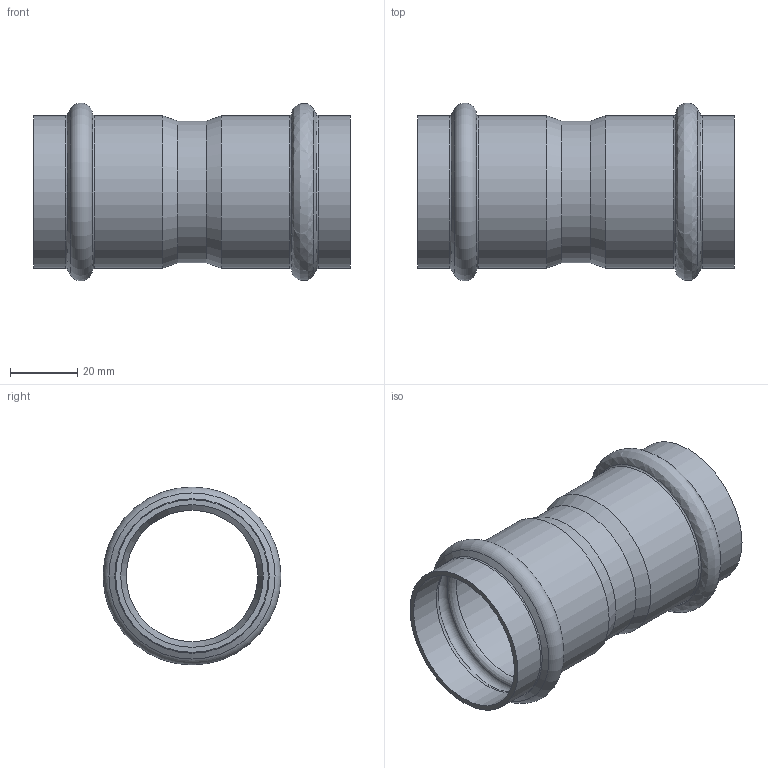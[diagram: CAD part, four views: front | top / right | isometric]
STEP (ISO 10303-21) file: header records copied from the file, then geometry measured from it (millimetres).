
FILE_DESCRIPTION((''),'2;1');
FILE_NAME('G:\Technics\CAD\Bauteile\042\6927042(0).stp','2008-03-03T13:38:45',('herberg'),(''),'Autodesk Inventor 2008','Autodesk Inventor 2008','');
FILE_SCHEMA(('AUTOMOTIVE_DESIGN { 1 0 10303 214 1 1 1 1 }'));
Length unit declared in the file: millimetre
Products named in the file (1): 6927042(0)
Bounding box: 94 x 52.8 x 52.8 mm (x, y, z)
Volume: 21332.4 mm3; surface area: 28872 mm2
Topology: 1 solids, 1 shells, 32 faces, 66 edges, 36 vertices
Faces by surface type: bspline 19, cylinder 6, cone 4, torus 2, plane 1
Full cylindrical faces by diameter (mm): 39 x1, 42 x1, 42.3 x2, 45.3 x2
Entity records: 1250 total; most frequent: CARTESIAN_POINT 748, DIRECTION 92, ORIENTED_EDGE 64, EDGE_LOOP 64, AXIS2_PLACEMENT_3D 46, VERTEX_POINT 32, CIRCLE 32, EDGE_CURVE 32
